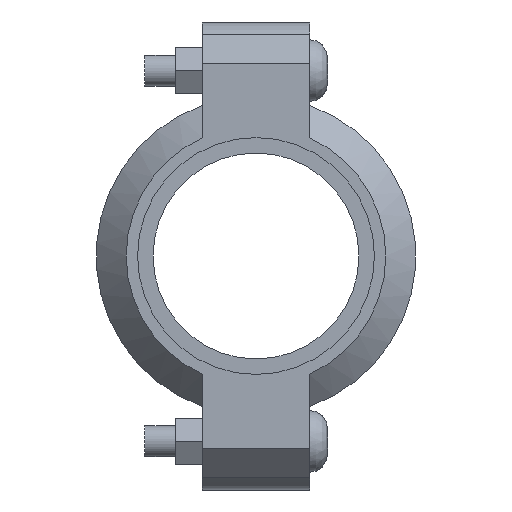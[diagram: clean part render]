
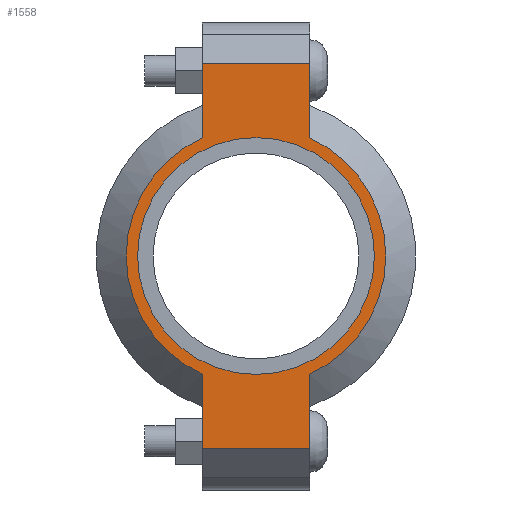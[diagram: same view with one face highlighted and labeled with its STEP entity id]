
A CAD part, left-side view. The second image highlights one B-rep face of the part: STEP entity #1558.
In plain terms, the highlighted planar face has unit normal (-1, 0, 0) as drawn and (0, 0, 1) by its records, which use the part's own axes.
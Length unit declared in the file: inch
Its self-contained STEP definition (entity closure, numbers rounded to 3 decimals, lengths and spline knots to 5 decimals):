
#182=LINE('',#2719,#275);
#190=LINE('',#2755,#283);
#197=LINE('',#2776,#290);
#206=LINE('',#2808,#299);
#207=LINE('',#2812,#300);
#208=LINE('',#2814,#301);
#275=VECTOR('',#2215,0.3937);
#283=VECTOR('',#2231,0.3937);
#290=VECTOR('',#2250,0.3937);
#299=VECTOR('',#2275,0.3937);
#300=VECTOR('',#2280,0.3937);
#301=VECTOR('',#2281,0.3937);
#357=FACE_BOUND('',#535,.T.);
#429=FACE_OUTER_BOUND('',#534,.T.);
#534=EDGE_LOOP('',(#1299,#1300,#1301,#1302,#1303,#1304,#1305,#1306));
#535=EDGE_LOOP('',(#1307));
#607=CIRCLE('',#1777,1.4375);
#633=CIRCLE('',#1836,1.575);
#634=CIRCLE('',#1837,1.575);
#699=VERTEX_POINT('',#2535);
#742=VERTEX_POINT('',#2716);
#743=VERTEX_POINT('',#2718);
#754=VERTEX_POINT('',#2750);
#755=VERTEX_POINT('',#2754);
#762=VERTEX_POINT('',#2773);
#763=VERTEX_POINT('',#2775);
#773=VERTEX_POINT('',#2811);
#774=VERTEX_POINT('',#2813);
#855=EDGE_CURVE('',#699,#699,#607,.T.);
#916=EDGE_CURVE('',#743,#742,#182,.T.);
#930=EDGE_CURVE('',#755,#754,#190,.T.);
#940=EDGE_CURVE('',#763,#762,#197,.T.);
#955=EDGE_CURVE('',#755,#742,#206,.T.);
#956=EDGE_CURVE('',#754,#763,#633,.T.);
#957=EDGE_CURVE('',#773,#762,#207,.T.);
#958=EDGE_CURVE('',#773,#774,#208,.T.);
#959=EDGE_CURVE('',#774,#743,#634,.T.);
#1299=ORIENTED_EDGE('',*,*,#955,.F.);
#1300=ORIENTED_EDGE('',*,*,#930,.T.);
#1301=ORIENTED_EDGE('',*,*,#956,.T.);
#1302=ORIENTED_EDGE('',*,*,#940,.T.);
#1303=ORIENTED_EDGE('',*,*,#957,.F.);
#1304=ORIENTED_EDGE('',*,*,#958,.T.);
#1305=ORIENTED_EDGE('',*,*,#959,.T.);
#1306=ORIENTED_EDGE('',*,*,#916,.T.);
#1307=ORIENTED_EDGE('',*,*,#855,.T.);
#1400=PLANE('',#1835);
#1558=ADVANCED_FACE('',(#429,#357),#1400,.T.);
#1777=AXIS2_PLACEMENT_3D('',#2537,#2091,#2092);
#1835=AXIS2_PLACEMENT_3D('',#2809,#2276,#2277);
#1836=AXIS2_PLACEMENT_3D('',#2810,#2278,#2279);
#1837=AXIS2_PLACEMENT_3D('',#2815,#2282,#2283);
#2091=DIRECTION('center_axis',(0.,0.,-1.));
#2092=DIRECTION('ref_axis',(-1.,0.,0.));
#2215=DIRECTION('',(-1.,0.,0.));
#2231=DIRECTION('',(1.,0.,0.));
#2250=DIRECTION('',(1.,0.,0.));
#2275=DIRECTION('',(0.,1.,0.));
#2276=DIRECTION('center_axis',(0.,0.,1.));
#2277=DIRECTION('ref_axis',(1.,0.,0.));
#2278=DIRECTION('center_axis',(0.,0.,1.));
#2279=DIRECTION('ref_axis',(-1.,0.,0.));
#2280=DIRECTION('',(0.,-1.,0.));
#2281=DIRECTION('',(-1.,0.,0.));
#2282=DIRECTION('center_axis',(0.,0.,1.));
#2283=DIRECTION('ref_axis',(-1.,0.,0.));
#2535=CARTESIAN_POINT('',(1.4375,0.,0.94));
#2537=CARTESIAN_POINT('Origin',(0.,0.,0.94));
#2716=CARTESIAN_POINT('',(-2.34,0.65,0.94));
#2718=CARTESIAN_POINT('',(-1.43462,0.65,0.94));
#2719=CARTESIAN_POINT('',(-2.84,0.65,0.94));
#2750=CARTESIAN_POINT('',(-1.43462,-0.65,0.94));
#2754=CARTESIAN_POINT('',(-2.34,-0.65,0.94));
#2755=CARTESIAN_POINT('',(2.84,-0.65,0.94));
#2773=CARTESIAN_POINT('',(2.34,-0.65,0.94));
#2775=CARTESIAN_POINT('',(1.43462,-0.65,0.94));
#2776=CARTESIAN_POINT('',(2.84,-0.65,0.94));
#2808=CARTESIAN_POINT('',(-2.34,0.325,0.94));
#2809=CARTESIAN_POINT('Origin',(0.,0.,
0.94));
#2810=CARTESIAN_POINT('Origin',(0.,0.,0.94));
#2811=CARTESIAN_POINT('',(2.34,0.65,0.94));
#2812=CARTESIAN_POINT('',(2.34,-0.325,0.94));
#2813=CARTESIAN_POINT('',(1.43462,0.65,0.94));
#2814=CARTESIAN_POINT('',(-2.84,0.65,0.94));
#2815=CARTESIAN_POINT('Origin',(0.,0.,0.94));
